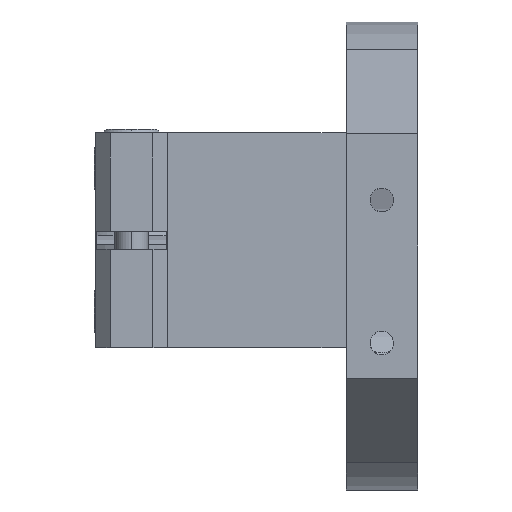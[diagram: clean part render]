
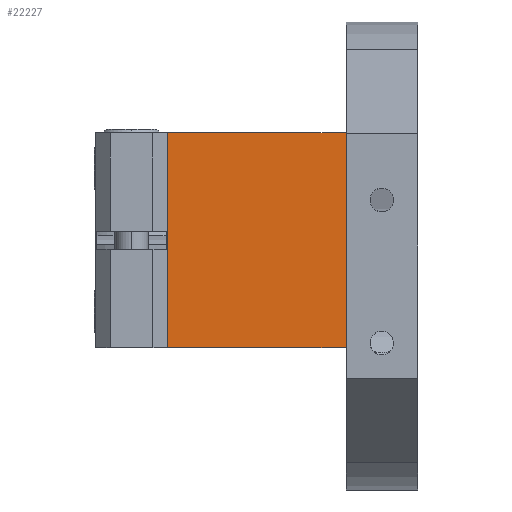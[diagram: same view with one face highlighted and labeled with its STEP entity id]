
A CAD part, left-side view. The second image highlights one B-rep face of the part: STEP entity #22227.
In plain terms, the highlighted planar face has unit normal (-1, 0, 0) as drawn and (0, 0, -1) by its records, which use the part's own axes.
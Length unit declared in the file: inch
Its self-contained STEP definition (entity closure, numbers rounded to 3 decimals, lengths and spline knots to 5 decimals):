
#3167 = EDGE_CURVE ( 'NONE', #50547, #5930, #19612, .T. ) ;
#3171 = EDGE_CURVE ( 'NONE', #50544, #5729, #19627, .T. ) ;
#3172 = EDGE_CURVE ( 'NONE', #5729, #5930, #19632, .T. ) ;
#5717 = DIRECTION ( 'NONE',  ( -1., 0., 0. ) ) ;
#5718 = CARTESIAN_POINT ( 'NONE',  ( 0., 0., -0.375 ) ) ;
#5721 = DIRECTION ( 'NONE',  ( 0., -1., 0. ) ) ;
#5722 = CARTESIAN_POINT ( 'NONE',  ( 1.5, 1.25, -0.375 ) ) ;
#5729 = VERTEX_POINT ( 'NONE', #44708 ) ;
#5731 = DIRECTION ( 'NONE',  ( 0., -1., 0. ) ) ;
#5732 = CARTESIAN_POINT ( 'NONE',  ( 0., 1.25, -0.375 ) ) ;
#5930 = VERTEX_POINT ( 'NONE', #44616 ) ;
#10844 = CARTESIAN_POINT ( 'NONE',  ( 0., 1.25, -0.375 ) ) ;
#10847 = CARTESIAN_POINT ( 'NONE',  ( 1.5, 1.25, -0.375 ) ) ;
#12077 = EDGE_CURVE ( 'NONE', #50544, #50547, #35034, .T. ) ;
#12920 = AXIS2_PLACEMENT_3D ( 'NONE', #26974, #26973, #26972 ) ;
#19612 = LINE ( 'NONE', #5732, #19613 ) ;
#19613 = VECTOR ( 'NONE', #5731, 39.37008 ) ;
#19627 = LINE ( 'NONE', #5722, #19630 ) ;
#19630 = VECTOR ( 'NONE', #5721, 39.37008 ) ;
#19632 = LINE ( 'NONE', #5718, #19634 ) ;
#19634 = VECTOR ( 'NONE', #5717, 39.37008 ) ;
#22227 = ADVANCED_FACE ( 'NONE', ( #66742 ), #26975, .F. ) ;
#26972 = DIRECTION ( 'NONE',  ( 1., 0., 0. ) ) ;
#26973 = DIRECTION ( 'NONE',  ( 0., 0., 1. ) ) ;
#26974 = CARTESIAN_POINT ( 'NONE',  ( 0., 1.25, -0.375 ) ) ;
#26975 = PLANE ( 'NONE',  #12920 ) ;
#35034 = LINE ( 'NONE', #46118, #35035 ) ;
#35035 = VECTOR ( 'NONE', #46117, 39.37008 ) ;
#44616 = CARTESIAN_POINT ( 'NONE',  ( 0., 0., -0.375 ) ) ;
#44708 = CARTESIAN_POINT ( 'NONE',  ( 1.5, 0., -0.375 ) ) ;
#46117 = DIRECTION ( 'NONE',  ( -1., 0., 0. ) ) ;
#46118 = CARTESIAN_POINT ( 'NONE',  ( 0., 1.25, -0.375 ) ) ;
#48383 = ORIENTED_EDGE ( 'NONE', *, *, #3172, .T. ) ;
#48384 = ORIENTED_EDGE ( 'NONE', *, *, #3167, .F. ) ;
#48385 = ORIENTED_EDGE ( 'NONE', *, *, #12077, .F. ) ;
#48386 = ORIENTED_EDGE ( 'NONE', *, *, #3171, .T. ) ;
#50544 = VERTEX_POINT ( 'NONE', #10847 ) ;
#50547 = VERTEX_POINT ( 'NONE', #10844 ) ;
#53208 = EDGE_LOOP ( 'NONE', ( #48383, #48384, #48385, #48386 ) ) ;
#66742 = FACE_OUTER_BOUND ( 'NONE', #53208, .T. ) ;
